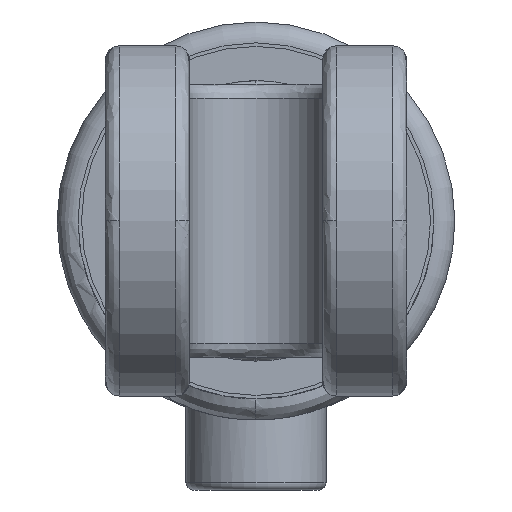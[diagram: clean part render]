
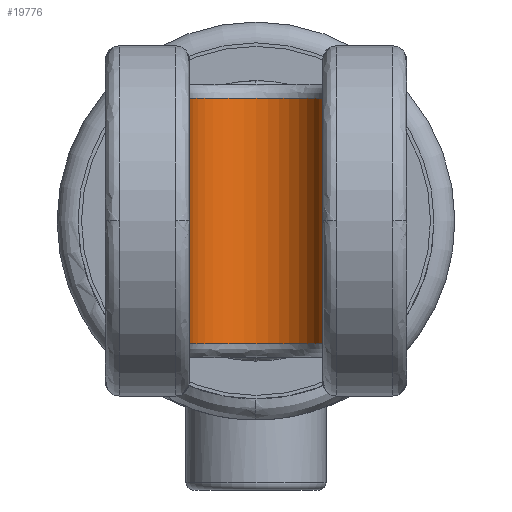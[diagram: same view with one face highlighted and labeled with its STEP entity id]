
A CAD part, left-side view. The second image highlights one B-rep face of the part: STEP entity #19776.
In plain terms, the highlighted cylindrical face has radius 9.5 mm (diameter 19 mm), a partial arc.
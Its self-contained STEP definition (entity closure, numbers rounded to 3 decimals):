
#162 = CYLINDRICAL_SURFACE ( 'NONE', #12462, 9.5 ) ;
#745 = DIRECTION ( 'NONE',  ( 0., 0., -1. ) ) ;
#1220 = CARTESIAN_POINT ( 'NONE',  ( 0.293, -7.946, -17.5 ) ) ;
#1426 = ORIENTED_EDGE ( 'NONE', *, *, #19935, .F. ) ;
#1911 = VECTOR ( 'NONE', #17359, 1000. ) ;
#2898 = AXIS2_PLACEMENT_3D ( 'NONE', #11690, #745, #13528 ) ;
#3041 = DIRECTION ( 'NONE',  ( 1., 0., 0. ) ) ;
#3146 = CARTESIAN_POINT ( 'NONE',  ( 0.293, 1.554, -17.5 ) ) ;
#3877 = CARTESIAN_POINT ( 'NONE',  ( 0.293, -17.446, -19.5 ) ) ;
#4067 = DIRECTION ( 'NONE',  ( 0., 0., 1. ) ) ;
#5839 = VERTEX_POINT ( 'NONE', #11691 ) ;
#6825 = LINE ( 'NONE', #13527, #1911 ) ;
#8644 = VERTEX_POINT ( 'NONE', #15381 ) ;
#9579 = EDGE_CURVE ( 'NONE', #5839, #8644, #13717, .T. ) ;
#9647 = ORIENTED_EDGE ( 'NONE', *, *, #17188, .F. ) ;
#10474 = FACE_OUTER_BOUND ( 'NONE', #22984, .T. ) ;
#11690 = CARTESIAN_POINT ( 'NONE',  ( 0.293, -7.946, 17.5 ) ) ;
#11691 = CARTESIAN_POINT ( 'NONE',  ( 0.293, -17.446, 17.5 ) ) ;
#12219 = VECTOR ( 'NONE', #4067, 1000. ) ;
#12249 = CARTESIAN_POINT ( 'NONE',  ( 0.293, -17.446, -17.5 ) ) ;
#12462 = AXIS2_PLACEMENT_3D ( 'NONE', #13117, #18715, #14966 ) ;
#13117 = CARTESIAN_POINT ( 'NONE',  ( 0.293, -7.946, -19.5 ) ) ;
#13527 = CARTESIAN_POINT ( 'NONE',  ( 0.293, 1.554, -19.5 ) ) ;
#13528 = DIRECTION ( 'NONE',  ( 1., 0., 0. ) ) ;
#13717 = CIRCLE ( 'NONE', #2898, 9.5 ) ;
#13997 = DIRECTION ( 'NONE',  ( 0., 0., 1. ) ) ;
#14073 = ORIENTED_EDGE ( 'NONE', *, *, #9579, .F. ) ;
#14636 = VERTEX_POINT ( 'NONE', #3146 ) ;
#14907 = AXIS2_PLACEMENT_3D ( 'NONE', #1220, #13997, #3041 ) ;
#14966 = DIRECTION ( 'NONE',  ( 1., 0., 0. ) ) ;
#15177 = EDGE_CURVE ( 'NONE', #8644, #14636, #6825, .T. ) ;
#15381 = CARTESIAN_POINT ( 'NONE',  ( 0.293, 1.554, 17.5 ) ) ;
#17188 = EDGE_CURVE ( 'NONE', #21693, #5839, #20804, .T. ) ;
#17359 = DIRECTION ( 'NONE',  ( 0., 0., -1. ) ) ;
#17727 = ORIENTED_EDGE ( 'NONE', *, *, #15177, .F. ) ;
#18715 = DIRECTION ( 'NONE',  ( 0., 0., 1. ) ) ;
#19035 = CIRCLE ( 'NONE', #14907, 9.5 ) ;
#19776 = ADVANCED_FACE ( 'NONE', ( #10474 ), #162, .F. ) ;
#19935 = EDGE_CURVE ( 'NONE', #14636, #21693, #19035, .T. ) ;
#20804 = LINE ( 'NONE', #3877, #12219 ) ;
#21693 = VERTEX_POINT ( 'NONE', #12249 ) ;
#22984 = EDGE_LOOP ( 'NONE', ( #9647, #1426, #17727, #14073 ) ) ;
